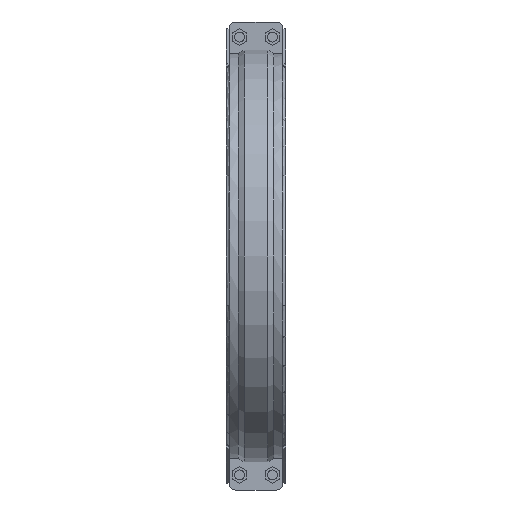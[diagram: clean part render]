
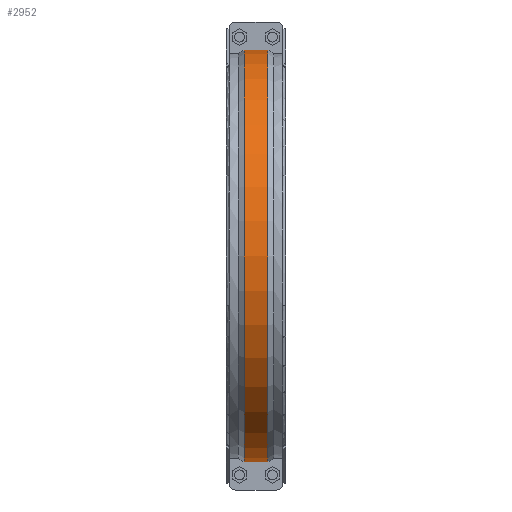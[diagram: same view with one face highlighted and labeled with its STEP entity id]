
A CAD part, front view. The second image highlights one B-rep face of the part: STEP entity #2952.
In plain terms, the highlighted cylindrical face has radius 397.759 mm (diameter 795.518 mm), a partial arc.
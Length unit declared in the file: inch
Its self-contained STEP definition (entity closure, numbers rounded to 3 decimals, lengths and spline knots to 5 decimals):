
#341=FACE_OUTER_BOUND('',#515,.T.);
#515=EDGE_LOOP('',(#2506,#2507,#2508,#2509));
#632=LINE('',#4445,#899);
#792=LINE('',#4981,#1059);
#899=VECTOR('',#3534,0.3937);
#1059=VECTOR('',#3972,0.3937);
#1121=CIRCLE('',#3119,15.65981);
#1155=CIRCLE('',#3218,15.65981);
#1269=VERTEX_POINT('',#4440);
#1270=VERTEX_POINT('',#4444);
#1315=VERTEX_POINT('',#4661);
#1414=VERTEX_POINT('',#4977);
#1571=EDGE_CURVE('',#1270,#1269,#632,.T.);
#1642=EDGE_CURVE('',#1315,#1269,#1121,.T.);
#1796=EDGE_CURVE('',#1315,#1414,#792,.T.);
#1803=EDGE_CURVE('',#1414,#1270,#1155,.T.);
#2506=ORIENTED_EDGE('',*,*,#1571,.T.);
#2507=ORIENTED_EDGE('',*,*,#1642,.F.);
#2508=ORIENTED_EDGE('',*,*,#1796,.T.);
#2509=ORIENTED_EDGE('',*,*,#1803,.T.);
#2648=CYLINDRICAL_SURFACE('',#3217,15.65981);
#2952=ADVANCED_FACE('',(#341),#2648,.T.);
#3119=AXIS2_PLACEMENT_3D('',#4665,#3669,#3670);
#3217=AXIS2_PLACEMENT_3D('',#4995,#3991,#3992);
#3218=AXIS2_PLACEMENT_3D('',#4996,#3993,#3994);
#3534=DIRECTION('',(1.,0.,0.));
#3669=DIRECTION('center_axis',(1.,0.,0.));
#3670=DIRECTION('ref_axis',(0.,0.,-1.));
#3972=DIRECTION('',(-1.,0.,0.));
#3991=DIRECTION('center_axis',(1.,0.,0.));
#3992=DIRECTION('ref_axis',(0.,-1.,0.));
#3993=DIRECTION('center_axis',(1.,0.,0.));
#3994=DIRECTION('ref_axis',(0.,0.,-1.));
#4440=CARTESIAN_POINT('',(0.9,-0.375,-15.65532));
#4444=CARTESIAN_POINT('',(-0.9,-0.375,-15.65532));
#4445=CARTESIAN_POINT('',(0.45,-0.375,-15.65532));
#4661=CARTESIAN_POINT('',(0.9,-0.375,15.65532));
#4665=CARTESIAN_POINT('Origin',(0.9,0.,0.));
#4977=CARTESIAN_POINT('',(-0.9,-0.375,15.65532));
#4981=CARTESIAN_POINT('',(0.45,-0.375,15.65532));
#4995=CARTESIAN_POINT('Origin',(0.45,0.,0.));
#4996=CARTESIAN_POINT('Origin',(-0.9,0.,0.));
